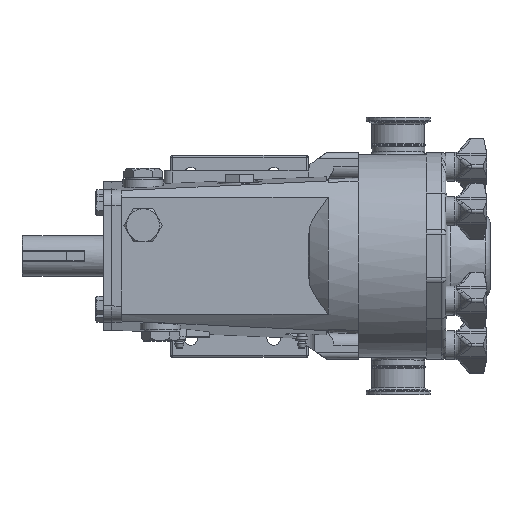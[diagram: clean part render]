
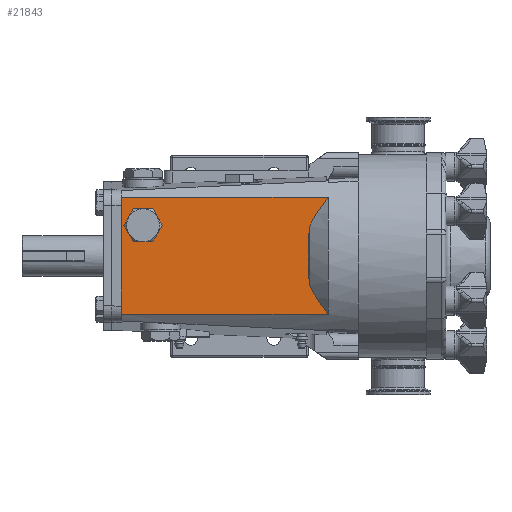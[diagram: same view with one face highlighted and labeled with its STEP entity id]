
A CAD part, top view. The second image highlights one B-rep face of the part: STEP entity #21843.
In plain terms, the highlighted planar face has unit normal (0, 0, 1).
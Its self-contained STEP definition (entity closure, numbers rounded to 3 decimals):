
#300=FACE_BOUND('',#4147,.T.);
#532=(
BOUNDED_CURVE()
B_SPLINE_CURVE(2,(#47496,#47497,#47498),.UNSPECIFIED.,.F.,.F.)
B_SPLINE_CURVE_WITH_KNOTS((3,3),(7.831,14.536),
 .UNSPECIFIED.)
CURVE()
GEOMETRIC_REPRESENTATION_ITEM()
RATIONAL_B_SPLINE_CURVE((1.427,1.512,1.427))
REPRESENTATION_ITEM('')
);
#533=(
BOUNDED_CURVE()
B_SPLINE_CURVE(2,(#47502,#47503,#47504),.UNSPECIFIED.,.F.,.F.)
B_SPLINE_CURVE_WITH_KNOTS((3,3),(-2.406,-0.111),
 .UNSPECIFIED.)
CURVE()
GEOMETRIC_REPRESENTATION_ITEM()
RATIONAL_B_SPLINE_CURVE((1.08,1.054,1.005))
REPRESENTATION_ITEM('')
);
#534=(
BOUNDED_CURVE()
B_SPLINE_CURVE(2,(#47507,#47508,#47509),.UNSPECIFIED.,.F.,.F.)
B_SPLINE_CURVE_WITH_KNOTS((3,3),(-10.211,-7.915),
 .UNSPECIFIED.)
CURVE()
GEOMETRIC_REPRESENTATION_ITEM()
RATIONAL_B_SPLINE_CURVE((1.005,1.054,1.08))
REPRESENTATION_ITEM('')
);
#1487=PLANE('',#23469);
#2745=FACE_OUTER_BOUND('',#4146,.T.);
#4146=EDGE_LOOP('',(#20118,#20119,#20120,#20121,#20122,#20123));
#4147=EDGE_LOOP('',(#20124,#20125,#20126,#20127,#20128,#20129));
#6488=LINE('',#47491,#8231);
#6489=LINE('',#47511,#8232);
#6490=LINE('',#47512,#8233);
#6491=LINE('',#47516,#8234);
#6492=LINE('',#47518,#8235);
#6493=LINE('',#47520,#8236);
#6494=LINE('',#47522,#8237);
#6495=LINE('',#47524,#8238);
#6496=LINE('',#47525,#8239);
#8231=VECTOR('',#28335,0.394);
#8232=VECTOR('',#28348,0.394);
#8233=VECTOR('',#28349,4.87);
#8234=VECTOR('',#28352,0.394);
#8235=VECTOR('',#28353,0.394);
#8236=VECTOR('',#28354,0.394);
#8237=VECTOR('',#28355,0.394);
#8238=VECTOR('',#28356,0.394);
#8239=VECTOR('',#28357,0.394);
#10797=VERTEX_POINT('',#47488);
#10798=VERTEX_POINT('',#47490);
#10799=VERTEX_POINT('',#47494);
#10800=VERTEX_POINT('',#47495);
#10801=VERTEX_POINT('',#47501);
#10802=VERTEX_POINT('',#47505);
#10803=VERTEX_POINT('',#47514);
#10804=VERTEX_POINT('',#47515);
#10805=VERTEX_POINT('',#47517);
#10806=VERTEX_POINT('',#47519);
#10807=VERTEX_POINT('',#47521);
#10808=VERTEX_POINT('',#47523);
#13923=EDGE_CURVE('',#10797,#10798,#6488,.T.);
#13925=EDGE_CURVE('',#10799,#10800,#532,.T.);
#13927=EDGE_CURVE('',#10799,#10801,#533,.T.);
#13929=EDGE_CURVE('',#10802,#10800,#534,.T.);
#13930=EDGE_CURVE('',#10798,#10802,#6489,.T.);
#13931=EDGE_CURVE('',#10797,#10801,#6490,.T.);
#13932=EDGE_CURVE('',#10803,#10804,#6491,.T.);
#13933=EDGE_CURVE('',#10805,#10803,#6492,.T.);
#13934=EDGE_CURVE('',#10806,#10805,#6493,.T.);
#13935=EDGE_CURVE('',#10807,#10806,#6494,.T.);
#13936=EDGE_CURVE('',#10808,#10807,#6495,.T.);
#13937=EDGE_CURVE('',#10804,#10808,#6496,.T.);
#20118=ORIENTED_EDGE('',*,*,#13931,.T.);
#20119=ORIENTED_EDGE('',*,*,#13927,.F.);
#20120=ORIENTED_EDGE('',*,*,#13925,.T.);
#20121=ORIENTED_EDGE('',*,*,#13929,.F.);
#20122=ORIENTED_EDGE('',*,*,#13930,.F.);
#20123=ORIENTED_EDGE('',*,*,#13923,.F.);
#20124=ORIENTED_EDGE('',*,*,#13932,.F.);
#20125=ORIENTED_EDGE('',*,*,#13933,.F.);
#20126=ORIENTED_EDGE('',*,*,#13934,.F.);
#20127=ORIENTED_EDGE('',*,*,#13935,.F.);
#20128=ORIENTED_EDGE('',*,*,#13936,.F.);
#20129=ORIENTED_EDGE('',*,*,#13937,.F.);
#21843=ADVANCED_FACE('',(#2745,#300),#1487,.T.);
#23469=AXIS2_PLACEMENT_3D('',#47513,#28350,#28351);
#28335=DIRECTION('',(0.,1.,0.));
#28348=DIRECTION('',(1.,0.,0.));
#28349=DIRECTION('',(1.,0.,0.));
#28350=DIRECTION('center_axis',(0.,0.,
1.));
#28351=DIRECTION('ref_axis',(1.,0.,0.));
#28352=DIRECTION('',(1.,0.,0.));
#28353=DIRECTION('',(0.5,-0.866,0.));
#28354=DIRECTION('',(-0.5,-0.866,0.));
#28355=DIRECTION('',(-1.,0.,0.));
#28356=DIRECTION('',(-0.5,0.866,0.));
#28357=DIRECTION('',(0.5,0.866,0.));
#47488=CARTESIAN_POINT('',(-7.32,-1.802,4.27));
#47490=CARTESIAN_POINT('',(-7.32,1.802,4.27));
#47491=CARTESIAN_POINT('',(-7.32,2.62,4.27));
#47494=CARTESIAN_POINT('',(-1.518,-0.914,4.27));
#47495=CARTESIAN_POINT('',(-1.518,0.914,4.27));
#47496=CARTESIAN_POINT('Ctrl Pts',(-1.518,-0.914,
4.27));
#47497=CARTESIAN_POINT('Ctrl Pts',(-1.599,0.,
4.27));
#47498=CARTESIAN_POINT('Ctrl Pts',(-1.518,0.914,
4.27));
#47501=CARTESIAN_POINT('',(-0.94,-1.802,4.27));
#47502=CARTESIAN_POINT('Ctrl Pts',(-1.518,-0.914,
4.27));
#47503=CARTESIAN_POINT('Ctrl Pts',(-1.324,-1.328,
4.27));
#47504=CARTESIAN_POINT('Ctrl Pts',(-0.94,-1.802,
4.27));
#47505=CARTESIAN_POINT('',(-0.94,1.802,4.27));
#47507=CARTESIAN_POINT('Ctrl Pts',(-0.94,1.802,
4.27));
#47508=CARTESIAN_POINT('Ctrl Pts',(-1.324,1.328,4.27));
#47509=CARTESIAN_POINT('Ctrl Pts',(-1.518,0.914,
4.27));
#47511=CARTESIAN_POINT('',(2.926,1.802,4.27));
#47512=CARTESIAN_POINT('',(-5.81,-1.802,4.27));
#47513=CARTESIAN_POINT('Origin',(-3.81,2.62,4.27));
#47514=CARTESIAN_POINT('',(-6.945,0.428,4.27));
#47515=CARTESIAN_POINT('',(-6.355,0.428,4.27));
#47516=CARTESIAN_POINT('',(-5.378,0.428,4.27));
#47517=CARTESIAN_POINT('',(-7.241,0.94,4.27));
#47518=CARTESIAN_POINT('',(-7.176,0.827,4.27));
#47519=CARTESIAN_POINT('',(-6.945,1.452,4.27));
#47520=CARTESIAN_POINT('',(-6.301,2.569,4.27));
#47521=CARTESIAN_POINT('',(-6.355,1.452,4.27));
#47522=CARTESIAN_POINT('',(-5.082,1.452,4.27));
#47523=CARTESIAN_POINT('',(-6.059,0.94,4.27));
#47524=CARTESIAN_POINT('',(-6.142,1.083,4.27));
#47525=CARTESIAN_POINT('',(-5.562,1.801,4.27));
